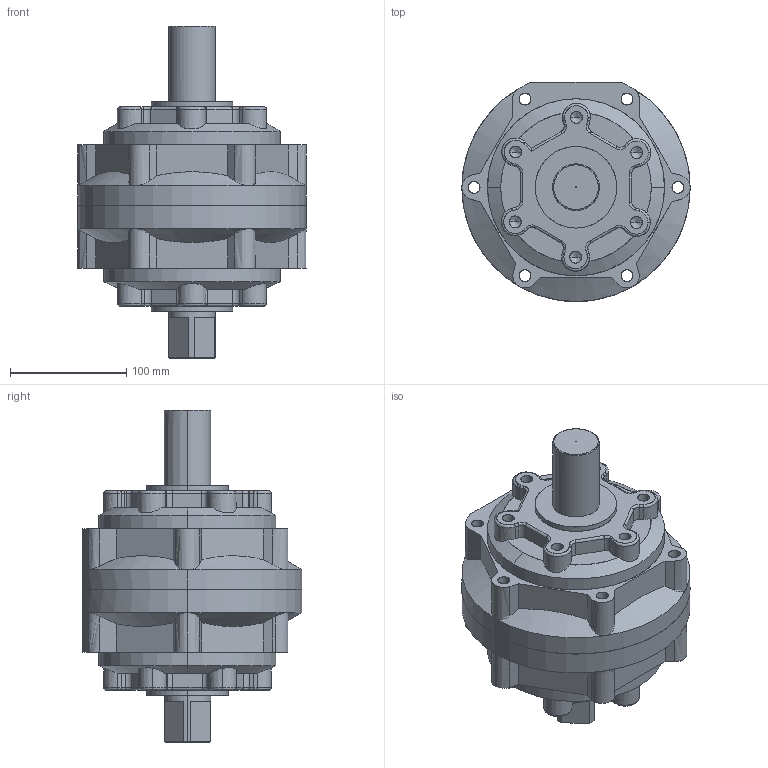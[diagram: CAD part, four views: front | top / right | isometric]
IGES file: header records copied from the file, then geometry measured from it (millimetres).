
Start section: SolidWorks IGES file using analytic representation for surfaces
Global section: file name: C:\Users\Chieh_Lu\Dropbox\¤u§@«Ç\PRN50-150-300-800\PRN800\PRN800\PRN800.IGS; native system: SolidWorks 2014; preprocessor: SolidWorks 2014; author: Chieh_Lu; date: 160115.005000; units: millimetre
Bounding box: 196 x 188.2 x 285 mm (x, y, z)
Surface area: 295967.8 mm2 (no closed solid volume)
Topology: 0 solids, 0 shells, 494 faces, 6490 edges, 6462 vertices
Faces by surface type: revolution 259, bspline 235
